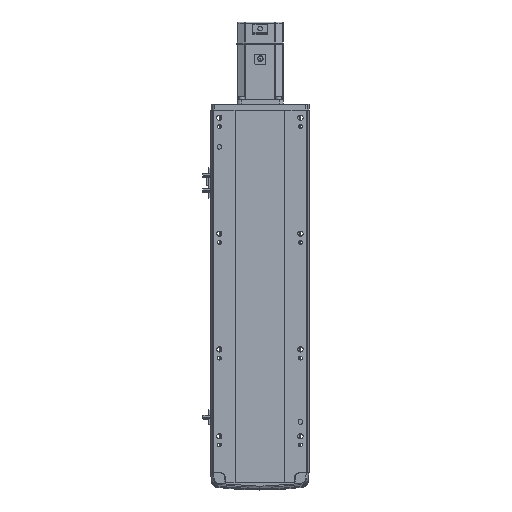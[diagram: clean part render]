
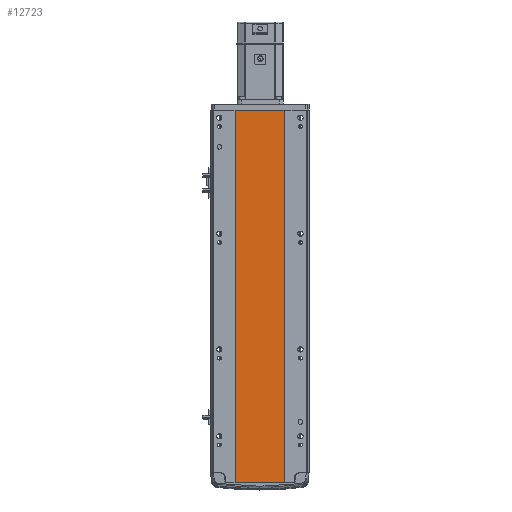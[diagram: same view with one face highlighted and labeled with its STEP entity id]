
A CAD part, front view. The second image highlights one B-rep face of the part: STEP entity #12723.
In plain terms, the highlighted planar face has unit normal (0, -1, 0).
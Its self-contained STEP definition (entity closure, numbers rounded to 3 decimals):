
#334 = VECTOR ( 'NONE', #45325, 1000. ) ;
#1038 = AXIS2_PLACEMENT_3D ( 'NONE', #12270, #3738, #39829 ) ;
#3608 = CARTESIAN_POINT ( 'NONE',  ( 0., 0.999, 0. ) ) ;
#3705 = VERTEX_POINT ( 'NONE', #50224 ) ;
#3738 = DIRECTION ( 'NONE',  ( 0., 1., 0. ) ) ;
#6048 = VECTOR ( 'NONE', #16852, 1000. ) ;
#7648 = EDGE_CURVE ( 'NONE', #8492, #3705, #35428, .T. ) ;
#8492 = VERTEX_POINT ( 'NONE', #17960 ) ;
#9568 = ORIENTED_EDGE ( 'NONE', *, *, #7648, .T. ) ;
#12270 = CARTESIAN_POINT ( 'NONE',  ( 0., 0.999, 643.5 ) ) ;
#12525 = CARTESIAN_POINT ( 'NONE',  ( 41.793, 0.998, 643.5 ) ) ;
#12723 = ADVANCED_FACE ( 'NONE', ( #40636 ), #39996, .F. ) ;
#13757 = VECTOR ( 'NONE', #19949, 1000. ) ;
#15381 = LINE ( 'NONE', #48252, #6048 ) ;
#16241 = LINE ( 'NONE', #3608, #13757 ) ;
#16306 = CARTESIAN_POINT ( 'NONE',  ( 41.793, 0.998, 0. ) ) ;
#16852 = DIRECTION ( 'NONE',  ( 1., 0., 0. ) ) ;
#17960 = CARTESIAN_POINT ( 'NONE',  ( -41.791, 1., 643.5 ) ) ;
#19949 = DIRECTION ( 'NONE',  ( 1., 0., 0. ) ) ;
#21547 = LINE ( 'NONE', #37328, #334 ) ;
#22270 = ORIENTED_EDGE ( 'NONE', *, *, #37054, .F. ) ;
#22942 = CARTESIAN_POINT ( 'NONE',  ( -41.791, 1., 643.5 ) ) ;
#23076 = VECTOR ( 'NONE', #50673, 1000. ) ;
#23511 = VERTEX_POINT ( 'NONE', #16306 ) ;
#24174 = ORIENTED_EDGE ( 'NONE', *, *, #46483, .T. ) ;
#24711 = ORIENTED_EDGE ( 'NONE', *, *, #37964, .F. ) ;
#24878 = EDGE_LOOP ( 'NONE', ( #24174, #24711, #22270, #9568 ) ) ;
#35428 = LINE ( 'NONE', #22942, #23076 ) ;
#37054 = EDGE_CURVE ( 'NONE', #8492, #43304, #15381, .T. ) ;
#37328 = CARTESIAN_POINT ( 'NONE',  ( 41.793, 0.998, 643.5 ) ) ;
#37964 = EDGE_CURVE ( 'NONE', #43304, #23511, #21547, .T. ) ;
#39829 = DIRECTION ( 'NONE',  ( -1., 0., 0. ) ) ;
#39996 = PLANE ( 'NONE',  #1038 ) ;
#40636 = FACE_OUTER_BOUND ( 'NONE', #24878, .T. ) ;
#43304 = VERTEX_POINT ( 'NONE', #12525 ) ;
#45325 = DIRECTION ( 'NONE',  ( 0., 0., -1. ) ) ;
#46483 = EDGE_CURVE ( 'NONE', #3705, #23511, #16241, .T. ) ;
#48252 = CARTESIAN_POINT ( 'NONE',  ( 0., 0.999, 643.5 ) ) ;
#50224 = CARTESIAN_POINT ( 'NONE',  ( -41.791, 1., 0. ) ) ;
#50673 = DIRECTION ( 'NONE',  ( 0., 0., -1. ) ) ;
